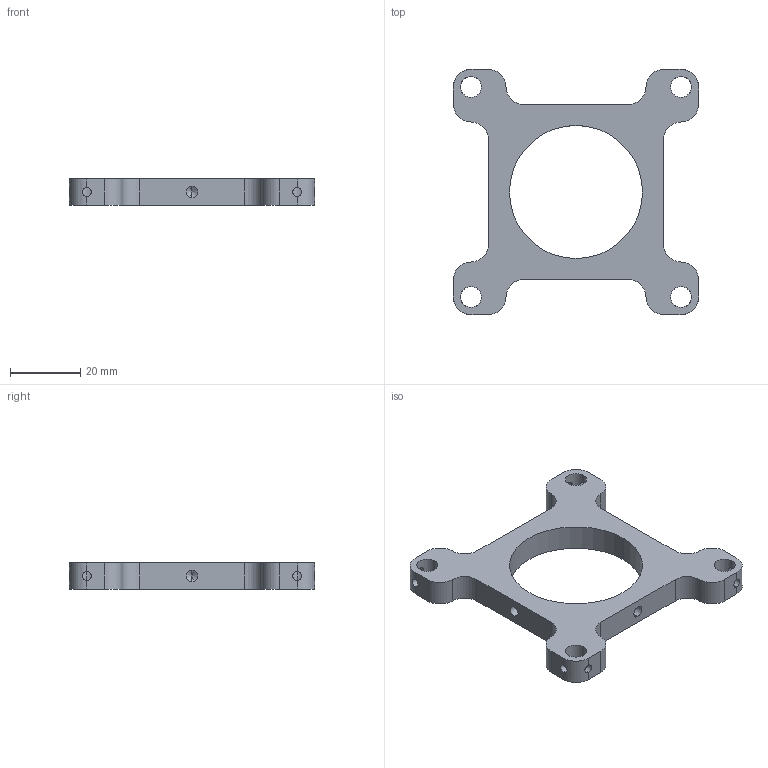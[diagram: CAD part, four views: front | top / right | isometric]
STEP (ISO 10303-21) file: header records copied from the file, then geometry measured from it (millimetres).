
FILE_DESCRIPTION (( 'STEP AP214' ), '1' );
FILE_NAME ('Tube lens adaptor M38 x 0.5 for 60mm cage 1.0.STEP', '2017-02-08T20:53:23', ( '' ), ( '' ), 'SwSTEP 2.0', 'SolidWorks 2016', '' );
FILE_SCHEMA (( 'AUTOMOTIVE_DESIGN' ));
Length unit declared in the file: millimetre
Products named in the file (1): Tube lens adaptor M38 x 0.5 for 60mm cage 1.0
Bounding box: 70 x 70 x 7.5 mm (x, y, z)
Volume: 15006.4 mm3; surface area: 8125.2 mm2
Topology: 1 solids, 1 shells, 76 faces, 226 edges, 136 vertices
Faces by surface type: cylinder 54, plane 14, cone 8
Entity records: 3310 total; most frequent: CARTESIAN_POINT 935, ORIENTED_EDGE 436, DIRECTION 432, EDGE_CURVE 218, AXIS2_PLACEMENT_3D 161, VERTEX_POINT 136, VECTOR 110, LINE 110
